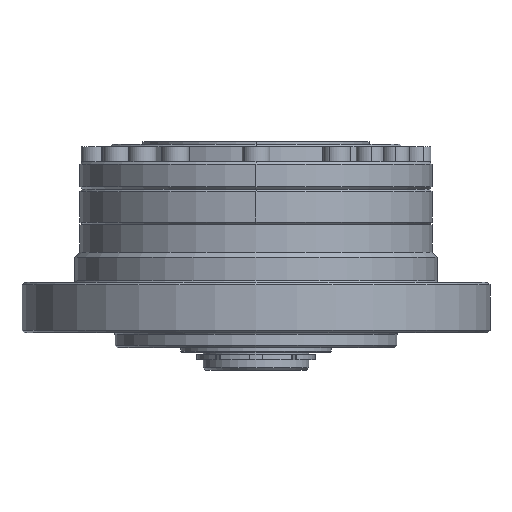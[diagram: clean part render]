
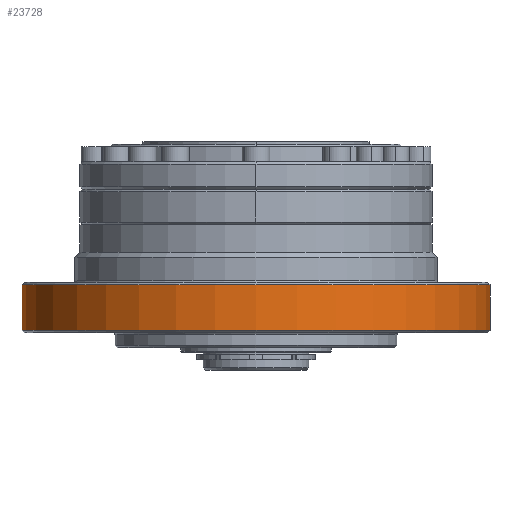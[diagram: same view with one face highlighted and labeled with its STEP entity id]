
A CAD part, front view. The second image highlights one B-rep face of the part: STEP entity #23728.
In plain terms, the highlighted cylindrical face has radius 46.5 mm (diameter 93 mm), a partial arc.
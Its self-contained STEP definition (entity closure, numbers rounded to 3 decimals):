
#1362 = DIRECTION ( 'NONE',  ( -1., 0., 0. ) ) ;
#1694 = CARTESIAN_POINT ( 'NONE',  ( 46.5, 0., 0. ) ) ;
#1851 = DIRECTION ( 'NONE',  ( 0., 0., -1. ) ) ;
#3459 = DIRECTION ( 'NONE',  ( 1., 0., 0. ) ) ;
#7492 = CARTESIAN_POINT ( 'NONE',  ( 46.5, 0., 12.495 ) ) ;
#8395 = CARTESIAN_POINT ( 'NONE',  ( -46.5, 0., 0. ) ) ;
#8841 = LINE ( 'NONE', #8395, #46163 ) ;
#9073 = AXIS2_PLACEMENT_3D ( 'NONE', #46726, #25046, #3459 ) ;
#9713 = VECTOR ( 'NONE', #1851, 1000. ) ;
#12908 = EDGE_LOOP ( 'NONE', ( #22486, #35097, #27139, #15313 ) ) ;
#15295 = DIRECTION ( 'NONE',  ( -1., 0., 0. ) ) ;
#15313 = ORIENTED_EDGE ( 'NONE', *, *, #45416, .T. ) ;
#16349 = VERTEX_POINT ( 'NONE', #7492 ) ;
#18915 = VERTEX_POINT ( 'NONE', #27631 ) ;
#21582 = VERTEX_POINT ( 'NONE', #44730 ) ;
#22419 = AXIS2_PLACEMENT_3D ( 'NONE', #40677, #44306, #15295 ) ;
#22486 = ORIENTED_EDGE ( 'NONE', *, *, #45941, .F. ) ;
#22944 = DIRECTION ( 'NONE',  ( 0., 0., 1. ) ) ;
#23728 = ADVANCED_FACE ( 'NONE', ( #26014 ), #36817, .T. ) ;
#24347 = CARTESIAN_POINT ( 'NONE',  ( 46.5, 0., 3.5 ) ) ;
#25046 = DIRECTION ( 'NONE',  ( 0., 0., -1. ) ) ;
#26014 = FACE_OUTER_BOUND ( 'NONE', #12908, .T. ) ;
#27139 = ORIENTED_EDGE ( 'NONE', *, *, #34031, .T. ) ;
#27303 = CIRCLE ( 'NONE', #9073, 46.5 ) ;
#27631 = CARTESIAN_POINT ( 'NONE',  ( -46.5, 0., 12.495 ) ) ;
#33754 = DIRECTION ( 'NONE',  ( 0., 0., -1. ) ) ;
#34031 = EDGE_CURVE ( 'NONE', #18915, #21582, #8841, .T. ) ;
#35097 = ORIENTED_EDGE ( 'NONE', *, *, #45748, .T. ) ;
#35578 = VERTEX_POINT ( 'NONE', #24347 ) ;
#36817 = CYLINDRICAL_SURFACE ( 'NONE', #22419, 46.5 ) ;
#37542 = AXIS2_PLACEMENT_3D ( 'NONE', #44647, #22944, #1362 ) ;
#38610 = LINE ( 'NONE', #1694, #9713 ) ;
#40677 = CARTESIAN_POINT ( 'NONE',  ( 0., 0., 0. ) ) ;
#40886 = CIRCLE ( 'NONE', #37542, 46.5 ) ;
#44306 = DIRECTION ( 'NONE',  ( 0., 0., -1. ) ) ;
#44647 = CARTESIAN_POINT ( 'NONE',  ( 0., 0., 3.5 ) ) ;
#44730 = CARTESIAN_POINT ( 'NONE',  ( -46.5, 0., 3.5 ) ) ;
#45416 = EDGE_CURVE ( 'NONE', #21582, #35578, #40886, .T. ) ;
#45748 = EDGE_CURVE ( 'NONE', #16349, #18915, #27303, .T. ) ;
#45941 = EDGE_CURVE ( 'NONE', #16349, #35578, #38610, .T. ) ;
#46163 = VECTOR ( 'NONE', #33754, 1000. ) ;
#46726 = CARTESIAN_POINT ( 'NONE',  ( 0., 0., 12.495 ) ) ;
